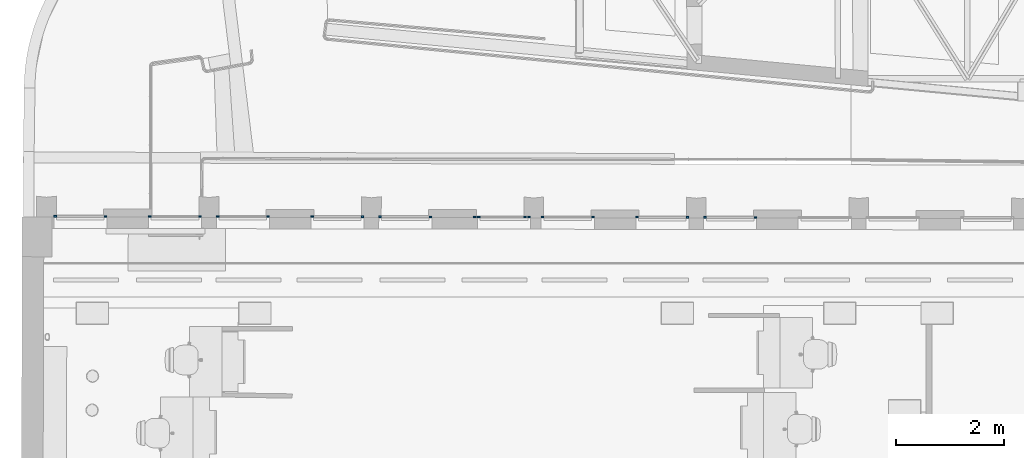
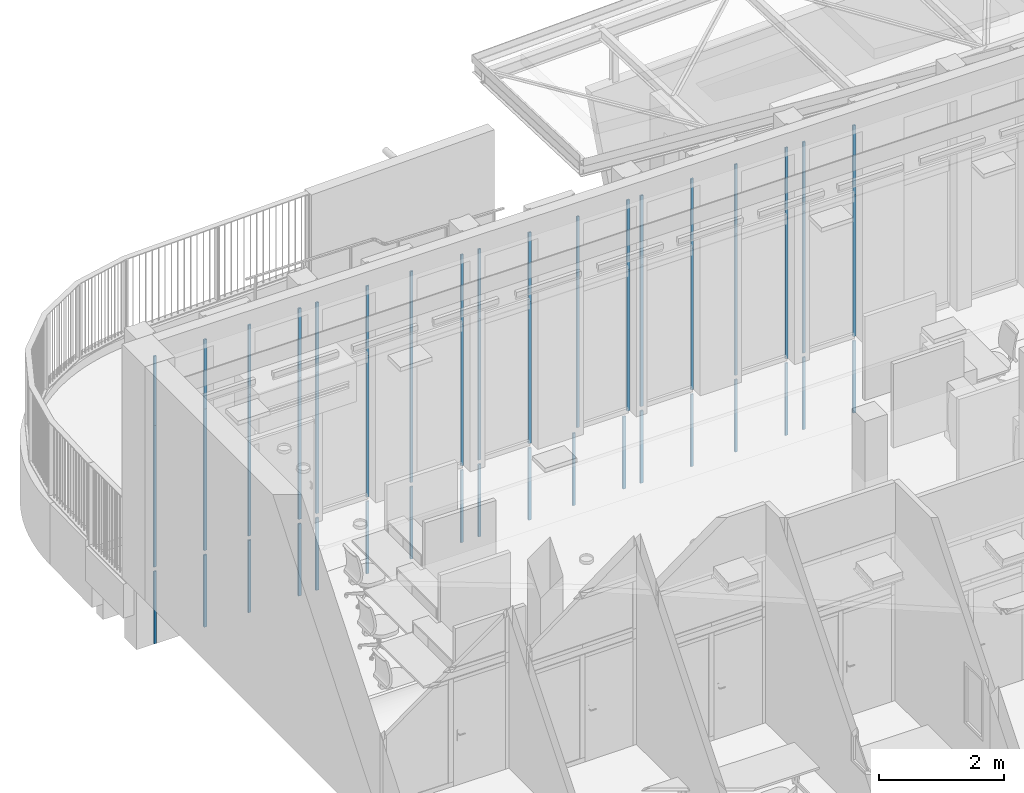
# One storey, part 8 of 128: 54 members, 18 elements without a shape of their own.
"""IFC2X3 building model written with IfcOpenShell, lengths in metres."""

from ifc_helpers import new_model, entity, si_unit, converted_unit, derived_unit, direction, frame, origin, origin_2d_with_axis, place, context, subcontext, project, spatial, rectangle, extrude, source, transform, mapped, material, type_object, type_shapes, element, aggregate, save


model = new_model("IFC2X3")

# Units and contexts
model_context = context("Model", 3, precision=1e-05, world=origin(), true_north=direction((6.123031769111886e-17, 1.0)))
body_context = subcontext(model_context, "Body", "Model", "MODEL_VIEW")
ifc_project = project(units=[si_unit("LENGTHUNIT", "METRE"), si_unit("AREAUNIT", "SQUARE_METRE"), converted_unit("PLANEANGLEUNIT", "DEGREE", entity("IfcPlaneAngleMeasure", 0.017453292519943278), si_unit("PLANEANGLEUNIT", "RADIAN"), dimensions=[0, 0, 0, 0, 0, 0, 0]), derived_unit("THERMALTRANSMITTANCEUNIT", [(si_unit("MASSUNIT", "GRAM", prefix="KILO"), 1), (si_unit("THERMODYNAMICTEMPERATUREUNIT", "KELVIN"), -1), (si_unit("TIMEUNIT", "SECOND"), -3)])], contexts=[model_context])

# Site, building, storey
site_placement = place(None, origin())
site = spatial("IfcSite", under=ifc_project, at=site_placement, Name="Default", CompositionType="ELEMENT")
building_placement = place(site_placement, origin())
building = spatial("IfcBuilding", under=site, at=building_placement, CompositionType="ELEMENT")
storey_placement = place(building_placement, origin())
storey = spatial("IfcBuildingStorey", under=building, at=storey_placement, Name="00_RDC CAF", CompositionType="ELEMENT", Elevation=2.4982504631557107e-13)

# Curtain wall, member
curtain_wall_type_1 = type_object("IfcCurtainWallType", Name="Mur-rideau:FRi.Ext.30mm RDC", PredefinedType="NOTDEFINED")
curtain_wall_1_placement = place(storey_placement, origin())
curtain_wall_1 = element("IfcCurtainWall", 1, at=curtain_wall_1_placement, inside=storey, type_object=curtain_wall_type_1, Name="Mur-rideau:FRi.Ext.30mm RDC", ObjectType="Mur-rideau:FRi.Ext.30mm RDC")
ifc_material = material(Name="ARC - M.Ex - Blanc")
member_type_1 = type_object("IfcMemberType", Name="Meneau rectangulaire:F.Ri.M_Ext_Rectangulaire_50x30mm", PredefinedType="MULLION", material=ifc_material)
shared_shape_1 = source(origin(), body_context, "Body", "SweptSolid", [
    extrude(rectangle(XDim=0.05, YDim=0.03, at=origin_2d_with_axis()), frame((-0.025, 0.0, -2.7689999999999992), z_axis=(0.0, 0.0, 1.0), x_axis=(-1.0, 0.0, 0.0)), (0.0, 0.0, 1.0), 2.7689999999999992),
])
type_shapes(member_type_1, [shared_shape_1])
member_1_placement = place(curtain_wall_1_placement, frame((10.865998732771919, 144.17708492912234, 0.0), z_axis=(0.0, 0.0, -1.0), x_axis=(1.0, 0.0, 0.0)))
member_1 = element("IfcMember", 2, at=member_1_placement, type_object=member_type_1, material=ifc_material, Name="Meneau rectangulaire:F.Ri.M_Ext_Rectangulaire_50x30mm", ObjectType="Meneau rectangulaire:F.Ri.M_Ext_Rectangulaire_50x30mm", context=body_context, shape_type="MappedRepresentation", body=[
    mapped(shared_shape_1, transform((0.0, 0.0, 0.0), scale=1.0)),
])

curtain_wall_2_placement = place(storey_placement, origin())
curtain_wall_2 = element("IfcCurtainWall", 3, at=curtain_wall_2_placement, inside=storey, type_object=curtain_wall_type_1, Name="Mur-rideau:FRi.Ext.30mm RDC", ObjectType="Mur-rideau:FRi.Ext.30mm RDC")
member_2_placement = place(curtain_wall_2_placement, frame((7.866045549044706, 144.1818029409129, 0.0), z_axis=(0.0, 0.0, -1.0), x_axis=(1.0, 0.0, 0.0)))
member_2 = element("IfcMember", 4, at=member_2_placement, type_object=member_type_1, material=ifc_material, Name="Meneau rectangulaire:F.Ri.M_Ext_Rectangulaire_50x30mm", ObjectType="Meneau rectangulaire:F.Ri.M_Ext_Rectangulaire_50x30mm", context=body_context, shape_type="MappedRepresentation", body=[
    mapped(shared_shape_1, transform((0.0, 0.0, 0.0), scale=1.0)),
])

curtain_wall_3_placement = place(storey_placement, origin())
curtain_wall_3 = element("IfcCurtainWall", 5, at=curtain_wall_3_placement, inside=storey, type_object=curtain_wall_type_1, Name="Mur-rideau:FRi.Ext.30mm RDC", ObjectType="Mur-rideau:FRi.Ext.30mm RDC")
member_3_placement = place(curtain_wall_3_placement, frame((12.612370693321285, 144.17433841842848, 0.0), z_axis=(0.0, 0.0, -1.0), x_axis=(1.0, 0.0, 0.0)))
member_3 = element("IfcMember", 6, at=member_3_placement, type_object=member_type_1, material=ifc_material, Name="Meneau rectangulaire:F.Ri.M_Ext_Rectangulaire_50x30mm", ObjectType="Meneau rectangulaire:F.Ri.M_Ext_Rectangulaire_50x30mm", context=body_context, shape_type="MappedRepresentation", body=[
    mapped(shared_shape_1, transform((0.0, 0.0, 0.0), scale=1.0)),
])

curtain_wall_4_placement = place(storey_placement, origin())
curtain_wall_4 = element("IfcCurtainWall", 7, at=curtain_wall_4_placement, inside=storey, type_object=curtain_wall_type_1, Name="Mur-rideau:FRi.Ext.30mm RDC", ObjectType="Mur-rideau:FRi.Ext.30mm RDC")
member_4_placement = place(curtain_wall_4_placement, frame((13.866032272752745, 144.17236679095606, 0.0), z_axis=(0.0, 0.0, -1.0), x_axis=(1.0, 0.0, 0.0)))
member_4 = element("IfcMember", 8, at=member_4_placement, type_object=member_type_1, material=ifc_material, Name="Meneau rectangulaire:F.Ri.M_Ext_Rectangulaire_50x30mm", ObjectType="Meneau rectangulaire:F.Ri.M_Ext_Rectangulaire_50x30mm", context=body_context, shape_type="MappedRepresentation", body=[
    mapped(shared_shape_1, transform((0.0, 0.0, 0.0), scale=1.0)),
])

curtain_wall_5_placement = place(storey_placement, origin())
curtain_wall_5 = element("IfcCurtainWall", 9, at=curtain_wall_5_placement, inside=storey, type_object=curtain_wall_type_1, Name="Mur-rideau:FRi.Ext.30mm RDC", ObjectType="Mur-rideau:FRi.Ext.30mm RDC")
member_5_placement = place(curtain_wall_5_placement, frame((15.687702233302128, 144.16962028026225, 0.0), z_axis=(0.0, 0.0, -1.0), x_axis=(1.0, 0.0, 0.0)))
member_5 = element("IfcMember", 10, at=member_5_placement, type_object=member_type_1, material=ifc_material, Name="Meneau rectangulaire:F.Ri.M_Ext_Rectangulaire_50x30mm", ObjectType="Meneau rectangulaire:F.Ri.M_Ext_Rectangulaire_50x30mm", context=body_context, shape_type="MappedRepresentation", body=[
    mapped(shared_shape_1, transform((0.0, 0.0, 0.0), scale=1.0)),
])

curtain_wall_6_placement = place(storey_placement, origin())
curtain_wall_6 = element("IfcCurtainWall", 11, at=curtain_wall_6_placement, inside=storey, type_object=curtain_wall_type_1, Name="Mur-rideau:FRi.Ext.30mm RDC", ObjectType="Mur-rideau:FRi.Ext.30mm RDC")
member_6_placement = place(curtain_wall_6_placement, frame((16.86602563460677, 144.16764871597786, 0.0), z_axis=(0.0, 0.0, -1.0), x_axis=(1.0, 0.0, 0.0)))
member_6 = element("IfcMember", 12, at=member_6_placement, type_object=member_type_1, material=ifc_material, Name="Meneau rectangulaire:F.Ri.M_Ext_Rectangulaire_50x30mm", ObjectType="Meneau rectangulaire:F.Ri.M_Ext_Rectangulaire_50x30mm", context=body_context, shape_type="MappedRepresentation", body=[
    mapped(shared_shape_1, transform((0.0, 0.0, 0.0), scale=1.0)),
])

curtain_wall_7_placement = place(storey_placement, origin())
curtain_wall_7 = element("IfcCurtainWall", 13, at=curtain_wall_7_placement, inside=storey, type_object=curtain_wall_type_1, Name="Mur-rideau:FRi.Ext.30mm RDC", ObjectType="Mur-rideau:FRi.Ext.30mm RDC")
member_7_placement = place(curtain_wall_7_placement, frame((18.612397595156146, 144.16490220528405, 0.0), z_axis=(0.0, 0.0, -1.0), x_axis=(1.0, 0.0, 0.0)))
member_7 = element("IfcMember", 14, at=member_7_placement, type_object=member_type_1, material=ifc_material, Name="Meneau rectangulaire:F.Ri.M_Ext_Rectangulaire_50x30mm", ObjectType="Meneau rectangulaire:F.Ri.M_Ext_Rectangulaire_50x30mm", context=body_context, shape_type="MappedRepresentation", body=[
    mapped(shared_shape_1, transform((0.0, 0.0, 0.0), scale=1.0)),
])

curtain_wall_8_placement = place(storey_placement, origin())
curtain_wall_8 = element("IfcCurtainWall", 15, at=curtain_wall_8_placement, inside=storey, type_object=curtain_wall_type_1, Name="Mur-rideau:FRi.Ext.30mm RDC", ObjectType="Mur-rideau:FRi.Ext.30mm RDC")
member_8_placement = place(curtain_wall_8_placement, frame((19.866018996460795, 144.16293064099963, 0.0), z_axis=(0.0, 0.0, -1.0), x_axis=(1.0, 0.0, 0.0)))
member_8 = element("IfcMember", 16, at=member_8_placement, type_object=member_type_1, material=ifc_material, Name="Meneau rectangulaire:F.Ri.M_Ext_Rectangulaire_50x30mm", ObjectType="Meneau rectangulaire:F.Ri.M_Ext_Rectangulaire_50x30mm", context=body_context, shape_type="MappedRepresentation", body=[
    mapped(shared_shape_1, transform((0.0, 0.0, 0.0), scale=1.0)),
])

# Member
member_type_2 = type_object("IfcMemberType", Name="Meneau rectangulaire:F.Ri.M_Ext_Rectangulaire_50x30mm", PredefinedType="MULLION", material=ifc_material)
shared_shape_2 = source(origin(), body_context, "Body", "SweptSolid", [
    extrude(rectangle(XDim=0.05, YDim=0.03, at=origin_2d_with_axis()), frame((-0.025, 0.0, -1.3589999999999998), z_axis=(0.0, 0.0, 1.0), x_axis=(-1.0, 0.0, 0.0)), (0.0, 0.0, 1.0), 1.3589999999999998),
])
type_shapes(member_type_2, [shared_shape_2])
member_9_placement = place(curtain_wall_1_placement, frame((10.865998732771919, 144.17708492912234, 2.7689999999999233), z_axis=(0.0, 0.0, -1.0), x_axis=(1.0, 0.0, 0.0)))
member_9 = element("IfcMember", 17, at=member_9_placement, type_object=member_type_2, material=ifc_material, Name="Meneau rectangulaire:F.Ri.M_Ext_Rectangulaire_50x30mm", ObjectType="Meneau rectangulaire:F.Ri.M_Ext_Rectangulaire_50x30mm", context=body_context, shape_type="MappedRepresentation", body=[
    mapped(shared_shape_2, transform((0.0, 0.0, 0.0), scale=1.0)),
])

# Curtain wall, member
curtain_wall_9_placement = place(storey_placement, origin())
curtain_wall_9 = element("IfcCurtainWall", 18, at=curtain_wall_9_placement, inside=storey, type_object=curtain_wall_type_1, Name="Mur-rideau:FRi.Ext.30mm RDC", ObjectType="Mur-rideau:FRi.Ext.30mm RDC")
member_10_placement = place(curtain_wall_9_placement, frame((9.612417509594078, 144.17905643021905, 2.7689999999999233), z_axis=(0.0, 0.0, -1.0), x_axis=(1.0, 0.0, 0.0)))
member_10 = element("IfcMember", 19, at=member_10_placement, type_object=member_type_2, material=ifc_material, Name="Meneau rectangulaire:F.Ri.M_Ext_Rectangulaire_50x30mm", ObjectType="Meneau rectangulaire:F.Ri.M_Ext_Rectangulaire_50x30mm", context=body_context, shape_type="MappedRepresentation", body=[
    mapped(shared_shape_2, transform((0.0, 0.0, 0.0), scale=1.0)),
])

# Member
member_11_placement = place(curtain_wall_2_placement, frame((7.866045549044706, 144.1818029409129, 2.7689999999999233), z_axis=(0.0, 0.0, -1.0), x_axis=(1.0, 0.0, 0.0)))
member_11 = element("IfcMember", 20, at=member_11_placement, type_object=member_type_2, material=ifc_material, Name="Meneau rectangulaire:F.Ri.M_Ext_Rectangulaire_50x30mm", ObjectType="Meneau rectangulaire:F.Ri.M_Ext_Rectangulaire_50x30mm", context=body_context, shape_type="MappedRepresentation", body=[
    mapped(shared_shape_2, transform((0.0, 0.0, 0.0), scale=1.0)),
])

member_12_placement = place(curtain_wall_3_placement, frame((12.612370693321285, 144.17433841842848, 2.7689999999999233), z_axis=(0.0, 0.0, -1.0), x_axis=(1.0, 0.0, 0.0)))
member_12 = element("IfcMember", 21, at=member_12_placement, type_object=member_type_2, material=ifc_material, Name="Meneau rectangulaire:F.Ri.M_Ext_Rectangulaire_50x30mm", ObjectType="Meneau rectangulaire:F.Ri.M_Ext_Rectangulaire_50x30mm", context=body_context, shape_type="MappedRepresentation", body=[
    mapped(shared_shape_2, transform((0.0, 0.0, 0.0), scale=1.0)),
])

member_13_placement = place(curtain_wall_4_placement, frame((13.866032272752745, 144.17236679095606, 2.7689999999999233), z_axis=(0.0, 0.0, -1.0), x_axis=(1.0, 0.0, 0.0)))
member_13 = element("IfcMember", 22, at=member_13_placement, type_object=member_type_2, material=ifc_material, Name="Meneau rectangulaire:F.Ri.M_Ext_Rectangulaire_50x30mm", ObjectType="Meneau rectangulaire:F.Ri.M_Ext_Rectangulaire_50x30mm", context=body_context, shape_type="MappedRepresentation", body=[
    mapped(shared_shape_2, transform((0.0, 0.0, 0.0), scale=1.0)),
])

member_14_placement = place(curtain_wall_5_placement, frame((15.687702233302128, 144.16962028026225, 2.7689999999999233), z_axis=(0.0, 0.0, -1.0), x_axis=(1.0, 0.0, 0.0)))
member_14 = element("IfcMember", 23, at=member_14_placement, type_object=member_type_2, material=ifc_material, Name="Meneau rectangulaire:F.Ri.M_Ext_Rectangulaire_50x30mm", ObjectType="Meneau rectangulaire:F.Ri.M_Ext_Rectangulaire_50x30mm", context=body_context, shape_type="MappedRepresentation", body=[
    mapped(shared_shape_2, transform((0.0, 0.0, 0.0), scale=1.0)),
])

member_15_placement = place(curtain_wall_6_placement, frame((16.86602563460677, 144.16764871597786, 2.7689999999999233), z_axis=(0.0, 0.0, -1.0), x_axis=(1.0, 0.0, 0.0)))
member_15 = element("IfcMember", 24, at=member_15_placement, type_object=member_type_2, material=ifc_material, Name="Meneau rectangulaire:F.Ri.M_Ext_Rectangulaire_50x30mm", ObjectType="Meneau rectangulaire:F.Ri.M_Ext_Rectangulaire_50x30mm", context=body_context, shape_type="MappedRepresentation", body=[
    mapped(shared_shape_2, transform((0.0, 0.0, 0.0), scale=1.0)),
])

member_16_placement = place(curtain_wall_7_placement, frame((18.612397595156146, 144.16490220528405, 2.7689999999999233), z_axis=(0.0, 0.0, -1.0), x_axis=(1.0, 0.0, 0.0)))
member_16 = element("IfcMember", 25, at=member_16_placement, type_object=member_type_2, material=ifc_material, Name="Meneau rectangulaire:F.Ri.M_Ext_Rectangulaire_50x30mm", ObjectType="Meneau rectangulaire:F.Ri.M_Ext_Rectangulaire_50x30mm", context=body_context, shape_type="MappedRepresentation", body=[
    mapped(shared_shape_2, transform((0.0, 0.0, 0.0), scale=1.0)),
])

member_17_placement = place(curtain_wall_8_placement, frame((19.866018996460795, 144.16293064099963, 2.7689999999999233), z_axis=(0.0, 0.0, -1.0), x_axis=(1.0, 0.0, 0.0)))
member_17 = element("IfcMember", 26, at=member_17_placement, type_object=member_type_2, material=ifc_material, Name="Meneau rectangulaire:F.Ri.M_Ext_Rectangulaire_50x30mm", ObjectType="Meneau rectangulaire:F.Ri.M_Ext_Rectangulaire_50x30mm", context=body_context, shape_type="MappedRepresentation", body=[
    mapped(shared_shape_2, transform((0.0, 0.0, 0.0), scale=1.0)),
])

member_type_3 = type_object("IfcMemberType", Name="Meneau rectangulaire:F.Ri.M_Ext_Rectangulaire_50x30mm", PredefinedType="MULLION", material=ifc_material)
shared_shape_3 = source(origin(), body_context, "Body", "SweptSolid", [
    extrude(rectangle(XDim=0.05, YDim=0.03, at=origin_2d_with_axis()), frame((-0.025, 0.0, -1.3589999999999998), z_axis=(0.0, 0.0, 1.0), x_axis=(-1.0, 0.0, 0.0)), (0.0, 0.0, 1.0), 1.3589999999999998),
])
type_shapes(member_type_3, [shared_shape_3])
member_18_placement = place(curtain_wall_1_placement, frame((9.885999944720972, 144.17862616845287, 4.127999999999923), z_axis=(0.0, 0.0, 1.0), x_axis=(-1.0, 0.0, 0.0)))
member_18 = element("IfcMember", 27, at=member_18_placement, type_object=member_type_3, material=ifc_material, Name="Meneau rectangulaire:F.Ri.M_Ext_Rectangulaire_50x30mm", ObjectType="Meneau rectangulaire:F.Ri.M_Ext_Rectangulaire_50x30mm", context=body_context, shape_type="MappedRepresentation", body=[
    mapped(shared_shape_3, transform((0.0, 0.0, 0.0), scale=1.0)),
])

member_19_placement = place(curtain_wall_9_placement, frame((8.63241872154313, 144.18059766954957, 4.127999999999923), z_axis=(0.0, 0.0, 1.0), x_axis=(-1.0, 0.0, 0.0)))
member_19 = element("IfcMember", 28, at=member_19_placement, type_object=member_type_3, material=ifc_material, Name="Meneau rectangulaire:F.Ri.M_Ext_Rectangulaire_50x30mm", ObjectType="Meneau rectangulaire:F.Ri.M_Ext_Rectangulaire_50x30mm", context=body_context, shape_type="MappedRepresentation", body=[
    mapped(shared_shape_3, transform((0.0, 0.0, 0.0), scale=1.0)),
])

member_20_placement = place(curtain_wall_2_placement, frame((6.886046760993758, 144.1833441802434, 4.127999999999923), z_axis=(0.0, 0.0, 1.0), x_axis=(-1.0, 0.0, 0.0)))
member_20 = element("IfcMember", 29, at=member_20_placement, type_object=member_type_3, material=ifc_material, Name="Meneau rectangulaire:F.Ri.M_Ext_Rectangulaire_50x30mm", ObjectType="Meneau rectangulaire:F.Ri.M_Ext_Rectangulaire_50x30mm", context=body_context, shape_type="MappedRepresentation", body=[
    mapped(shared_shape_3, transform((0.0, 0.0, 0.0), scale=1.0)),
])

member_21_placement = place(curtain_wall_3_placement, frame((11.632371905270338, 144.175879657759, 4.127999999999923), z_axis=(0.0, 0.0, 1.0), x_axis=(-1.0, 0.0, 0.0)))
member_21 = element("IfcMember", 30, at=member_21_placement, type_object=member_type_3, material=ifc_material, Name="Meneau rectangulaire:F.Ri.M_Ext_Rectangulaire_50x30mm", ObjectType="Meneau rectangulaire:F.Ri.M_Ext_Rectangulaire_50x30mm", context=body_context, shape_type="MappedRepresentation", body=[
    mapped(shared_shape_3, transform((0.0, 0.0, 0.0), scale=1.0)),
])

member_22_placement = place(curtain_wall_4_placement, frame((12.8860334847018, 144.1739080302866, 4.127999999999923), z_axis=(0.0, 0.0, 1.0), x_axis=(-1.0, 0.0, 0.0)))
member_22 = element("IfcMember", 31, at=member_22_placement, type_object=member_type_3, material=ifc_material, Name="Meneau rectangulaire:F.Ri.M_Ext_Rectangulaire_50x30mm", ObjectType="Meneau rectangulaire:F.Ri.M_Ext_Rectangulaire_50x30mm", context=body_context, shape_type="MappedRepresentation", body=[
    mapped(shared_shape_3, transform((0.0, 0.0, 0.0), scale=1.0)),
])

member_23_placement = place(curtain_wall_5_placement, frame((14.707703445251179, 144.17116151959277, 4.127999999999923), z_axis=(0.0, 0.0, 1.0), x_axis=(-1.0, 0.0, 0.0)))
member_23 = element("IfcMember", 32, at=member_23_placement, type_object=member_type_3, material=ifc_material, Name="Meneau rectangulaire:F.Ri.M_Ext_Rectangulaire_50x30mm", ObjectType="Meneau rectangulaire:F.Ri.M_Ext_Rectangulaire_50x30mm", context=body_context, shape_type="MappedRepresentation", body=[
    mapped(shared_shape_3, transform((0.0, 0.0, 0.0), scale=1.0)),
])

member_24_placement = place(curtain_wall_6_placement, frame((15.886026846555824, 144.1691899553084, 4.127999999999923), z_axis=(0.0, 0.0, 1.0), x_axis=(-1.0, 0.0, 0.0)))
member_24 = element("IfcMember", 33, at=member_24_placement, type_object=member_type_3, material=ifc_material, Name="Meneau rectangulaire:F.Ri.M_Ext_Rectangulaire_50x30mm", ObjectType="Meneau rectangulaire:F.Ri.M_Ext_Rectangulaire_50x30mm", context=body_context, shape_type="MappedRepresentation", body=[
    mapped(shared_shape_3, transform((0.0, 0.0, 0.0), scale=1.0)),
])

member_25_placement = place(curtain_wall_7_placement, frame((17.6323988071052, 144.16644344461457, 4.127999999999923), z_axis=(0.0, 0.0, 1.0), x_axis=(-1.0, 0.0, 0.0)))
member_25 = element("IfcMember", 34, at=member_25_placement, type_object=member_type_3, material=ifc_material, Name="Meneau rectangulaire:F.Ri.M_Ext_Rectangulaire_50x30mm", ObjectType="Meneau rectangulaire:F.Ri.M_Ext_Rectangulaire_50x30mm", context=body_context, shape_type="MappedRepresentation", body=[
    mapped(shared_shape_3, transform((0.0, 0.0, 0.0), scale=1.0)),
])

member_26_placement = place(curtain_wall_8_placement, frame((18.886020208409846, 144.16447188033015, 4.127999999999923), z_axis=(0.0, 0.0, 1.0), x_axis=(-1.0, 0.0, 0.0)))
member_26 = element("IfcMember", 35, at=member_26_placement, type_object=member_type_3, material=ifc_material, Name="Meneau rectangulaire:F.Ri.M_Ext_Rectangulaire_50x30mm", ObjectType="Meneau rectangulaire:F.Ri.M_Ext_Rectangulaire_50x30mm", context=body_context, shape_type="MappedRepresentation", body=[
    mapped(shared_shape_3, transform((0.0, 0.0, 0.0), scale=1.0)),
])

member_type_4 = type_object("IfcMemberType", Name="Meneau rectangulaire:F.Ri.M_Ext_Rectangulaire_50x30mm", PredefinedType="MULLION", material=ifc_material)
shared_shape_4 = source(origin(), body_context, "Body", "SweptSolid", [
    extrude(rectangle(XDim=0.05, YDim=0.03, at=origin_2d_with_axis()), frame((-0.025, 0.0, -2.7689999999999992), z_axis=(0.0, 0.0, 1.0), x_axis=(-1.0, 0.0, 0.0)), (0.0, 0.0, 1.0), 2.7689999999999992),
])
type_shapes(member_type_4, [shared_shape_4])
member_27_placement = place(curtain_wall_1_placement, frame((9.885999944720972, 144.17862616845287, 2.7689999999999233), z_axis=(0.0, 0.0, 1.0), x_axis=(-1.0, 0.0, 0.0)))
member_27 = element("IfcMember", 36, at=member_27_placement, type_object=member_type_4, material=ifc_material, Name="Meneau rectangulaire:F.Ri.M_Ext_Rectangulaire_50x30mm", ObjectType="Meneau rectangulaire:F.Ri.M_Ext_Rectangulaire_50x30mm", context=body_context, shape_type="MappedRepresentation", body=[
    mapped(shared_shape_4, transform((0.0, 0.0, 0.0), scale=1.0)),
])

aggregate(curtain_wall_1, [member_1, member_9, member_18, member_27])

member_28_placement = place(curtain_wall_2_placement, frame((6.886046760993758, 144.1833441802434, 2.7689999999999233), z_axis=(0.0, 0.0, 1.0), x_axis=(-1.0, 0.0, 0.0)))
member_28 = element("IfcMember", 37, at=member_28_placement, type_object=member_type_4, material=ifc_material, Name="Meneau rectangulaire:F.Ri.M_Ext_Rectangulaire_50x30mm", ObjectType="Meneau rectangulaire:F.Ri.M_Ext_Rectangulaire_50x30mm", context=body_context, shape_type="MappedRepresentation", body=[
    mapped(shared_shape_4, transform((0.0, 0.0, 0.0), scale=1.0)),
])

aggregate(curtain_wall_2, [member_2, member_11, member_20, member_28])

member_29_placement = place(curtain_wall_3_placement, frame((11.632371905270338, 144.175879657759, 2.7689999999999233), z_axis=(0.0, 0.0, 1.0), x_axis=(-1.0, 0.0, 0.0)))
member_29 = element("IfcMember", 38, at=member_29_placement, type_object=member_type_4, material=ifc_material, Name="Meneau rectangulaire:F.Ri.M_Ext_Rectangulaire_50x30mm", ObjectType="Meneau rectangulaire:F.Ri.M_Ext_Rectangulaire_50x30mm", context=body_context, shape_type="MappedRepresentation", body=[
    mapped(shared_shape_4, transform((0.0, 0.0, 0.0), scale=1.0)),
])

aggregate(curtain_wall_3, [member_3, member_12, member_21, member_29])

member_30_placement = place(curtain_wall_4_placement, frame((12.8860334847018, 144.1739080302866, 2.7689999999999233), z_axis=(0.0, 0.0, 1.0), x_axis=(-1.0, 0.0, 0.0)))
member_30 = element("IfcMember", 39, at=member_30_placement, type_object=member_type_4, material=ifc_material, Name="Meneau rectangulaire:F.Ri.M_Ext_Rectangulaire_50x30mm", ObjectType="Meneau rectangulaire:F.Ri.M_Ext_Rectangulaire_50x30mm", context=body_context, shape_type="MappedRepresentation", body=[
    mapped(shared_shape_4, transform((0.0, 0.0, 0.0), scale=1.0)),
])

aggregate(curtain_wall_4, [member_4, member_13, member_22, member_30])

member_31_placement = place(curtain_wall_5_placement, frame((14.707703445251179, 144.17116151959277, 2.7689999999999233), z_axis=(0.0, 0.0, 1.0), x_axis=(-1.0, 0.0, 0.0)))
member_31 = element("IfcMember", 40, at=member_31_placement, type_object=member_type_4, material=ifc_material, Name="Meneau rectangulaire:F.Ri.M_Ext_Rectangulaire_50x30mm", ObjectType="Meneau rectangulaire:F.Ri.M_Ext_Rectangulaire_50x30mm", context=body_context, shape_type="MappedRepresentation", body=[
    mapped(shared_shape_4, transform((0.0, 0.0, 0.0), scale=1.0)),
])

aggregate(curtain_wall_5, [member_5, member_14, member_23, member_31])

member_32_placement = place(curtain_wall_6_placement, frame((15.886026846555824, 144.1691899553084, 2.7689999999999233), z_axis=(0.0, 0.0, 1.0), x_axis=(-1.0, 0.0, 0.0)))
member_32 = element("IfcMember", 41, at=member_32_placement, type_object=member_type_4, material=ifc_material, Name="Meneau rectangulaire:F.Ri.M_Ext_Rectangulaire_50x30mm", ObjectType="Meneau rectangulaire:F.Ri.M_Ext_Rectangulaire_50x30mm", context=body_context, shape_type="MappedRepresentation", body=[
    mapped(shared_shape_4, transform((0.0, 0.0, 0.0), scale=1.0)),
])

aggregate(curtain_wall_6, [member_6, member_15, member_24, member_32])

member_33_placement = place(curtain_wall_7_placement, frame((17.6323988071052, 144.16644344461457, 2.7689999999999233), z_axis=(0.0, 0.0, 1.0), x_axis=(-1.0, 0.0, 0.0)))
member_33 = element("IfcMember", 42, at=member_33_placement, type_object=member_type_4, material=ifc_material, Name="Meneau rectangulaire:F.Ri.M_Ext_Rectangulaire_50x30mm", ObjectType="Meneau rectangulaire:F.Ri.M_Ext_Rectangulaire_50x30mm", context=body_context, shape_type="MappedRepresentation", body=[
    mapped(shared_shape_4, transform((0.0, 0.0, 0.0), scale=1.0)),
])

aggregate(curtain_wall_7, [member_7, member_16, member_25, member_33])

member_34_placement = place(curtain_wall_8_placement, frame((18.886020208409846, 144.16447188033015, 2.7689999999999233), z_axis=(0.0, 0.0, 1.0), x_axis=(-1.0, 0.0, 0.0)))
member_34 = element("IfcMember", 43, at=member_34_placement, type_object=member_type_4, material=ifc_material, Name="Meneau rectangulaire:F.Ri.M_Ext_Rectangulaire_50x30mm", ObjectType="Meneau rectangulaire:F.Ri.M_Ext_Rectangulaire_50x30mm", context=body_context, shape_type="MappedRepresentation", body=[
    mapped(shared_shape_4, transform((0.0, 0.0, 0.0), scale=1.0)),
])

aggregate(curtain_wall_8, [member_8, member_17, member_26, member_34])

member_type_5 = type_object("IfcMemberType", Name="Meneau rectangulaire:F.Ri.M_Ext_Rectangulaire_50x30mm", PredefinedType="MULLION", material=ifc_material)
shared_shape_5 = source(origin(), body_context, "Body", "SweptSolid", [
    extrude(rectangle(XDim=0.05, YDim=0.03, at=origin_2d_with_axis()), frame((-0.025, 0.0, -2.7689999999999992), z_axis=(0.0, 0.0, 1.0), x_axis=(-1.0, 0.0, 0.0)), (0.0, 0.0, 1.0), 2.7689999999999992),
])
type_shapes(member_type_5, [shared_shape_5])
member_35_placement = place(curtain_wall_9_placement, frame((9.612417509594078, 144.17905643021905, 0.0), z_axis=(0.0, 0.0, -1.0), x_axis=(1.0, 0.0, 0.0)))
member_35 = element("IfcMember", 44, at=member_35_placement, type_object=member_type_5, material=ifc_material, Name="Meneau rectangulaire:F.Ri.M_Ext_Rectangulaire_50x30mm", ObjectType="Meneau rectangulaire:F.Ri.M_Ext_Rectangulaire_50x30mm", context=body_context, shape_type="MappedRepresentation", body=[
    mapped(shared_shape_5, transform((0.0, 0.0, 0.0), scale=1.0)),
])

member_type_6 = type_object("IfcMemberType", Name="Meneau rectangulaire:F.Ri.M_Ext_Rectangulaire_50x30mm", PredefinedType="MULLION", material=ifc_material)
shared_shape_6 = source(origin(), body_context, "Body", "SweptSolid", [
    extrude(rectangle(XDim=0.05, YDim=0.03, at=origin_2d_with_axis()), frame((-0.025, 0.0, -2.7689999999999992), z_axis=(0.0, 0.0, 1.0), x_axis=(-1.0, 0.0, 0.0)), (0.0, 0.0, 1.0), 2.7689999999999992),
])
type_shapes(member_type_6, [shared_shape_6])
member_36_placement = place(curtain_wall_9_placement, frame((8.63241872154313, 144.18059766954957, 2.7689999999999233), z_axis=(0.0, 0.0, 1.0), x_axis=(-1.0, 0.0, 0.0)))
member_36 = element("IfcMember", 45, at=member_36_placement, type_object=member_type_6, material=ifc_material, Name="Meneau rectangulaire:F.Ri.M_Ext_Rectangulaire_50x30mm", ObjectType="Meneau rectangulaire:F.Ri.M_Ext_Rectangulaire_50x30mm", context=body_context, shape_type="MappedRepresentation", body=[
    mapped(shared_shape_6, transform((0.0, 0.0, 0.0), scale=1.0)),
])

aggregate(curtain_wall_9, [member_35, member_10, member_19, member_36])

# Curtain wall, member
curtain_wall_type_2 = type_object("IfcCurtainWallType", Name="Mur-rideau:FRi.Ext.30mm Etages", PredefinedType="NOTDEFINED")
curtain_wall_10_placement = place(storey_placement, origin())
curtain_wall_10 = element("IfcCurtainWall", 46, at=curtain_wall_10_placement, inside=storey, type_object=curtain_wall_type_2, Name="Mur-rideau:FRi.Ext.30mm Etages", ObjectType="Mur-rideau:FRi.Ext.30mm Etages")
member_type_7 = type_object("IfcMemberType", Name="Meneau rectangulaire:F.Ri.M_Ext_Rectangulaire_50x30mm", PredefinedType="MULLION", material=ifc_material)
shared_shape_7 = source(origin(), body_context, "Body", "SweptSolid", [
    extrude(rectangle(XDim=0.05, YDim=0.03, at=origin_2d_with_axis()), frame((-0.025, 0.0, -1.4129999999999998), z_axis=(0.0, 0.0, 1.0), x_axis=(-1.0, 0.0, 0.0)), (0.0, 0.0, 1.0), 1.4129999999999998),
])
type_shapes(member_type_7, [shared_shape_7])
member_37_placement = place(curtain_wall_10_placement, frame((10.865998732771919, 144.17708492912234, -1.500000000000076), z_axis=(0.0, 0.0, -1.0), x_axis=(1.0, 0.0, 0.0)))
member_37 = element("IfcMember", 47, at=member_37_placement, type_object=member_type_7, material=ifc_material, Name="Meneau rectangulaire:F.Ri.M_Ext_Rectangulaire_50x30mm", ObjectType="Meneau rectangulaire:F.Ri.M_Ext_Rectangulaire_50x30mm", context=body_context, shape_type="MappedRepresentation", body=[
    mapped(shared_shape_7, transform((0.0, 0.0, 0.0), scale=1.0)),
])

curtain_wall_11_placement = place(storey_placement, origin())
curtain_wall_11 = element("IfcCurtainWall", 48, at=curtain_wall_11_placement, inside=storey, type_object=curtain_wall_type_2, Name="Mur-rideau:FRi.Ext.30mm Etages", ObjectType="Mur-rideau:FRi.Ext.30mm Etages")
member_38_placement = place(curtain_wall_11_placement, frame((7.866045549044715, 144.18180294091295, -1.500000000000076), z_axis=(0.0, 0.0, -1.0), x_axis=(1.0, 0.0, 0.0)))
member_38 = element("IfcMember", 49, at=member_38_placement, type_object=member_type_7, material=ifc_material, Name="Meneau rectangulaire:F.Ri.M_Ext_Rectangulaire_50x30mm", ObjectType="Meneau rectangulaire:F.Ri.M_Ext_Rectangulaire_50x30mm", context=body_context, shape_type="MappedRepresentation", body=[
    mapped(shared_shape_7, transform((0.0, 0.0, 0.0), scale=1.0)),
])

curtain_wall_12_placement = place(storey_placement, origin())
curtain_wall_12 = element("IfcCurtainWall", 50, at=curtain_wall_12_placement, inside=storey, type_object=curtain_wall_type_2, Name="Mur-rideau:FRi.Ext.30mm Etages", ObjectType="Mur-rideau:FRi.Ext.30mm Etages")
member_39_placement = place(curtain_wall_12_placement, frame((13.866032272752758, 144.17236679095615, -1.500000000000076), z_axis=(0.0, 0.0, -1.0), x_axis=(1.0, 0.0, 0.0)))
member_39 = element("IfcMember", 51, at=member_39_placement, type_object=member_type_7, material=ifc_material, Name="Meneau rectangulaire:F.Ri.M_Ext_Rectangulaire_50x30mm", ObjectType="Meneau rectangulaire:F.Ri.M_Ext_Rectangulaire_50x30mm", context=body_context, shape_type="MappedRepresentation", body=[
    mapped(shared_shape_7, transform((0.0, 0.0, 0.0), scale=1.0)),
])

curtain_wall_13_placement = place(storey_placement, origin())
curtain_wall_13 = element("IfcCurtainWall", 52, at=curtain_wall_13_placement, inside=storey, type_object=curtain_wall_type_2, Name="Mur-rideau:FRi.Ext.30mm Etages", ObjectType="Mur-rideau:FRi.Ext.30mm Etages")
member_40_placement = place(curtain_wall_13_placement, frame((16.86602563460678, 144.16764871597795, -1.500000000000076), z_axis=(0.0, 0.0, -1.0), x_axis=(1.0, 0.0, 0.0)))
member_40 = element("IfcMember", 53, at=member_40_placement, type_object=member_type_7, material=ifc_material, Name="Meneau rectangulaire:F.Ri.M_Ext_Rectangulaire_50x30mm", ObjectType="Meneau rectangulaire:F.Ri.M_Ext_Rectangulaire_50x30mm", context=body_context, shape_type="MappedRepresentation", body=[
    mapped(shared_shape_7, transform((0.0, 0.0, 0.0), scale=1.0)),
])

curtain_wall_14_placement = place(storey_placement, origin())
curtain_wall_14 = element("IfcCurtainWall", 54, at=curtain_wall_14_placement, inside=storey, type_object=curtain_wall_type_2, Name="Mur-rideau:FRi.Ext.30mm Etages", ObjectType="Mur-rideau:FRi.Ext.30mm Etages")
member_41_placement = place(curtain_wall_14_placement, frame((19.866018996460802, 144.1629306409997, -1.500000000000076), z_axis=(0.0, 0.0, -1.0), x_axis=(1.0, 0.0, 0.0)))
member_41 = element("IfcMember", 55, at=member_41_placement, type_object=member_type_7, material=ifc_material, Name="Meneau rectangulaire:F.Ri.M_Ext_Rectangulaire_50x30mm", ObjectType="Meneau rectangulaire:F.Ri.M_Ext_Rectangulaire_50x30mm", context=body_context, shape_type="MappedRepresentation", body=[
    mapped(shared_shape_7, transform((0.0, 0.0, 0.0), scale=1.0)),
])

# Member
member_type_8 = type_object("IfcMemberType", Name="Meneau rectangulaire:F.Ri.M_Ext_Rectangulaire_50x30mm", PredefinedType="MULLION", material=ifc_material)
shared_shape_8 = source(origin(), body_context, "Body", "SweptSolid", [
    extrude(rectangle(XDim=0.05, YDim=0.03, at=origin_2d_with_axis()), frame((-0.025, 0.0, -1.4129999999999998), z_axis=(0.0, 0.0, 1.0), x_axis=(-1.0, 0.0, 0.0)), (0.0, 0.0, 1.0), 1.4129999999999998),
])
type_shapes(member_type_8, [shared_shape_8])
member_42_placement = place(curtain_wall_10_placement, frame((9.885999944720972, 144.17862616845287, -0.087000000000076), z_axis=(0.0, 0.0, 1.0), x_axis=(-1.0, 0.0, 0.0)))
member_42 = element("IfcMember", 56, at=member_42_placement, type_object=member_type_8, material=ifc_material, Name="Meneau rectangulaire:F.Ri.M_Ext_Rectangulaire_50x30mm", ObjectType="Meneau rectangulaire:F.Ri.M_Ext_Rectangulaire_50x30mm", context=body_context, shape_type="MappedRepresentation", body=[
    mapped(shared_shape_8, transform((0.0, 0.0, 0.0), scale=1.0)),
])

aggregate(curtain_wall_10, [member_37, member_42])

member_43_placement = place(curtain_wall_11_placement, frame((6.886046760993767, 144.18334418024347, -0.087000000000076), z_axis=(0.0, 0.0, 1.0), x_axis=(-1.0, 0.0, 0.0)))
member_43 = element("IfcMember", 57, at=member_43_placement, type_object=member_type_8, material=ifc_material, Name="Meneau rectangulaire:F.Ri.M_Ext_Rectangulaire_50x30mm", ObjectType="Meneau rectangulaire:F.Ri.M_Ext_Rectangulaire_50x30mm", context=body_context, shape_type="MappedRepresentation", body=[
    mapped(shared_shape_8, transform((0.0, 0.0, 0.0), scale=1.0)),
])

aggregate(curtain_wall_11, [member_38, member_43])

member_44_placement = place(curtain_wall_12_placement, frame((12.886033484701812, 144.17390803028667, -0.087000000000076), z_axis=(0.0, 0.0, 1.0), x_axis=(-1.0, 0.0, 0.0)))
member_44 = element("IfcMember", 58, at=member_44_placement, type_object=member_type_8, material=ifc_material, Name="Meneau rectangulaire:F.Ri.M_Ext_Rectangulaire_50x30mm", ObjectType="Meneau rectangulaire:F.Ri.M_Ext_Rectangulaire_50x30mm", context=body_context, shape_type="MappedRepresentation", body=[
    mapped(shared_shape_8, transform((0.0, 0.0, 0.0), scale=1.0)),
])

aggregate(curtain_wall_12, [member_39, member_44])

member_45_placement = place(curtain_wall_13_placement, frame((15.886026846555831, 144.16918995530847, -0.087000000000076), z_axis=(0.0, 0.0, 1.0), x_axis=(-1.0, 0.0, 0.0)))
member_45 = element("IfcMember", 59, at=member_45_placement, type_object=member_type_8, material=ifc_material, Name="Meneau rectangulaire:F.Ri.M_Ext_Rectangulaire_50x30mm", ObjectType="Meneau rectangulaire:F.Ri.M_Ext_Rectangulaire_50x30mm", context=body_context, shape_type="MappedRepresentation", body=[
    mapped(shared_shape_8, transform((0.0, 0.0, 0.0), scale=1.0)),
])

aggregate(curtain_wall_13, [member_40, member_45])

member_46_placement = place(curtain_wall_14_placement, frame((18.886020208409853, 144.1644718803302, -0.087000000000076), z_axis=(0.0, 0.0, 1.0), x_axis=(-1.0, 0.0, 0.0)))
member_46 = element("IfcMember", 60, at=member_46_placement, type_object=member_type_8, material=ifc_material, Name="Meneau rectangulaire:F.Ri.M_Ext_Rectangulaire_50x30mm", ObjectType="Meneau rectangulaire:F.Ri.M_Ext_Rectangulaire_50x30mm", context=body_context, shape_type="MappedRepresentation", body=[
    mapped(shared_shape_8, transform((0.0, 0.0, 0.0), scale=1.0)),
])

aggregate(curtain_wall_14, [member_41, member_46])

# Curtain wall, member
curtain_wall_15_placement = place(storey_placement, origin())
curtain_wall_15 = element("IfcCurtainWall", 61, at=curtain_wall_15_placement, inside=storey, type_object=curtain_wall_type_2, Name="Mur-rideau:FRi.Ext.30mm Etages", ObjectType="Mur-rideau:FRi.Ext.30mm Etages")
member_type_9 = type_object("IfcMemberType", Name="Meneau rectangulaire:F.Ri.M_Ext_Rectangulaire_50x30mm", PredefinedType="MULLION", material=ifc_material)
shared_shape_9 = source(origin(), body_context, "Body", "SweptSolid", [
    extrude(rectangle(XDim=0.05, YDim=0.03, at=origin_2d_with_axis()), frame((-0.025, 0.0, -1.4129999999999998), z_axis=(0.0, 0.0, 1.0), x_axis=(-1.0, 0.0, 0.0)), (0.0, 0.0, 1.0), 1.4129999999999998),
])
type_shapes(member_type_9, [shared_shape_9])
member_47_placement = place(curtain_wall_15_placement, frame((11.63234602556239, 144.17587969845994, -1.500000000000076), z_axis=(0.0, 0.0, -1.0), x_axis=(-1.0, 0.0, 0.0)))
member_47 = element("IfcMember", 62, at=member_47_placement, type_object=member_type_9, material=ifc_material, Name="Meneau rectangulaire:F.Ri.M_Ext_Rectangulaire_50x30mm", ObjectType="Meneau rectangulaire:F.Ri.M_Ext_Rectangulaire_50x30mm", context=body_context, shape_type="MappedRepresentation", body=[
    mapped(shared_shape_9, transform((0.0, 0.0, 0.0), scale=1.0)),
])

curtain_wall_16_placement = place(storey_placement, origin())
curtain_wall_16 = element("IfcCurtainWall", 63, at=curtain_wall_16_placement, inside=storey, type_object=curtain_wall_type_2, Name="Mur-rideau:FRi.Ext.30mm Etages", ObjectType="Mur-rideau:FRi.Ext.30mm Etages")
member_48_placement = place(curtain_wall_16_placement, frame((8.632392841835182, 144.18059771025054, -1.500000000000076), z_axis=(0.0, 0.0, -1.0), x_axis=(-1.0, 0.0, 0.0)))
member_48 = element("IfcMember", 64, at=member_48_placement, type_object=member_type_9, material=ifc_material, Name="Meneau rectangulaire:F.Ri.M_Ext_Rectangulaire_50x30mm", ObjectType="Meneau rectangulaire:F.Ri.M_Ext_Rectangulaire_50x30mm", context=body_context, shape_type="MappedRepresentation", body=[
    mapped(shared_shape_9, transform((0.0, 0.0, 0.0), scale=1.0)),
])

curtain_wall_17_placement = place(storey_placement, origin())
curtain_wall_17 = element("IfcCurtainWall", 65, at=curtain_wall_17_placement, inside=storey, type_object=curtain_wall_type_2, Name="Mur-rideau:FRi.Ext.30mm Etages", ObjectType="Mur-rideau:FRi.Ext.30mm Etages")
member_49_placement = place(curtain_wall_17_placement, frame((14.632379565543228, 144.17116156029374, -1.500000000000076), z_axis=(0.0, 0.0, -1.0), x_axis=(-1.0, 0.0, 0.0)))
member_49 = element("IfcMember", 66, at=member_49_placement, type_object=member_type_9, material=ifc_material, Name="Meneau rectangulaire:F.Ri.M_Ext_Rectangulaire_50x30mm", ObjectType="Meneau rectangulaire:F.Ri.M_Ext_Rectangulaire_50x30mm", context=body_context, shape_type="MappedRepresentation", body=[
    mapped(shared_shape_9, transform((0.0, 0.0, 0.0), scale=1.0)),
])

curtain_wall_18_placement = place(storey_placement, origin())
curtain_wall_18 = element("IfcCurtainWall", 67, at=curtain_wall_18_placement, inside=storey, type_object=curtain_wall_type_2, Name="Mur-rideau:FRi.Ext.30mm Etages", ObjectType="Mur-rideau:FRi.Ext.30mm Etages")
member_50_placement = place(curtain_wall_18_placement, frame((17.63237292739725, 144.16644348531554, -1.500000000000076), z_axis=(0.0, 0.0, -1.0), x_axis=(-1.0, 0.0, 0.0)))
member_50 = element("IfcMember", 68, at=member_50_placement, type_object=member_type_9, material=ifc_material, Name="Meneau rectangulaire:F.Ri.M_Ext_Rectangulaire_50x30mm", ObjectType="Meneau rectangulaire:F.Ri.M_Ext_Rectangulaire_50x30mm", context=body_context, shape_type="MappedRepresentation", body=[
    mapped(shared_shape_9, transform((0.0, 0.0, 0.0), scale=1.0)),
])

# Member
member_type_10 = type_object("IfcMemberType", Name="Meneau rectangulaire:F.Ri.M_Ext_Rectangulaire_50x30mm", PredefinedType="MULLION", material=ifc_material)
shared_shape_10 = source(origin(), body_context, "Body", "SweptSolid", [
    extrude(rectangle(XDim=0.05, YDim=0.03, at=origin_2d_with_axis()), frame((-0.025, 0.0, -1.4129999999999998), z_axis=(0.0, 0.0, 1.0), x_axis=(-1.0, 0.0, 0.0)), (0.0, 0.0, 1.0), 1.4129999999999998),
])
type_shapes(member_type_10, [shared_shape_10])
member_51_placement = place(curtain_wall_15_placement, frame((12.612344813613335, 144.17433845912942, -0.087000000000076)))
member_51 = element("IfcMember", 69, at=member_51_placement, type_object=member_type_10, material=ifc_material, Name="Meneau rectangulaire:F.Ri.M_Ext_Rectangulaire_50x30mm", ObjectType="Meneau rectangulaire:F.Ri.M_Ext_Rectangulaire_50x30mm", context=body_context, shape_type="MappedRepresentation", body=[
    mapped(shared_shape_10, transform((0.0, 0.0, 0.0), scale=1.0)),
])

aggregate(curtain_wall_15, [member_47, member_51])

member_52_placement = place(curtain_wall_16_placement, frame((9.612391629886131, 144.17905647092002, -0.087000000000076)))
member_52 = element("IfcMember", 70, at=member_52_placement, type_object=member_type_10, material=ifc_material, Name="Meneau rectangulaire:F.Ri.M_Ext_Rectangulaire_50x30mm", ObjectType="Meneau rectangulaire:F.Ri.M_Ext_Rectangulaire_50x30mm", context=body_context, shape_type="MappedRepresentation", body=[
    mapped(shared_shape_10, transform((0.0, 0.0, 0.0), scale=1.0)),
])

aggregate(curtain_wall_16, [member_48, member_52])

member_53_placement = place(curtain_wall_17_placement, frame((15.612378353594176, 144.16962032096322, -0.087000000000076)))
member_53 = element("IfcMember", 71, at=member_53_placement, type_object=member_type_10, material=ifc_material, Name="Meneau rectangulaire:F.Ri.M_Ext_Rectangulaire_50x30mm", ObjectType="Meneau rectangulaire:F.Ri.M_Ext_Rectangulaire_50x30mm", context=body_context, shape_type="MappedRepresentation", body=[
    mapped(shared_shape_10, transform((0.0, 0.0, 0.0), scale=1.0)),
])

aggregate(curtain_wall_17, [member_49, member_53])

member_54_placement = place(curtain_wall_18_placement, frame((18.612371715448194, 144.16490224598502, -0.087000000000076)))
member_54 = element("IfcMember", 72, at=member_54_placement, type_object=member_type_10, material=ifc_material, Name="Meneau rectangulaire:F.Ri.M_Ext_Rectangulaire_50x30mm", ObjectType="Meneau rectangulaire:F.Ri.M_Ext_Rectangulaire_50x30mm", context=body_context, shape_type="MappedRepresentation", body=[
    mapped(shared_shape_10, transform((0.0, 0.0, 0.0), scale=1.0)),
])

aggregate(curtain_wall_18, [member_50, member_54])

save(model, "model.ifc")
